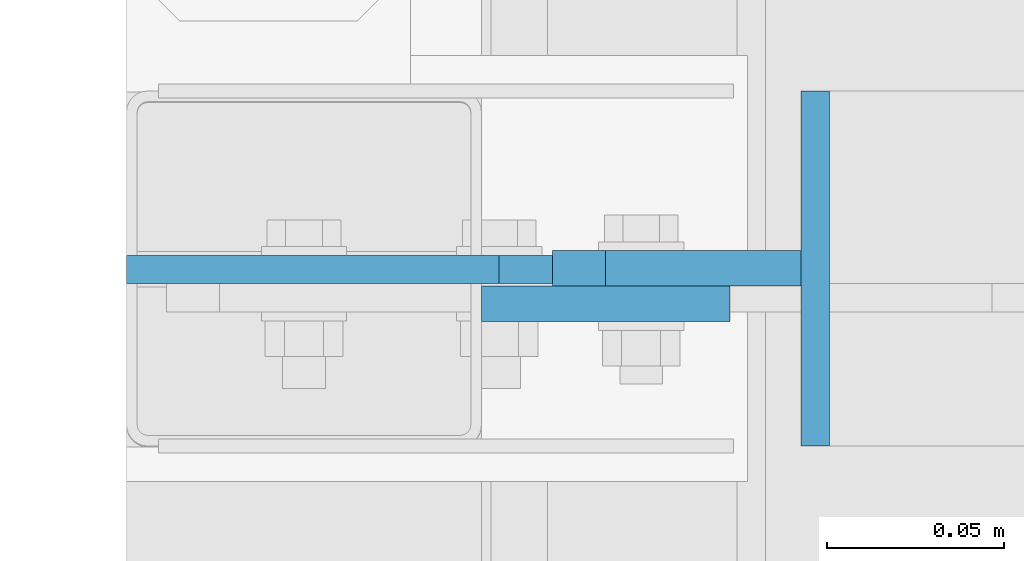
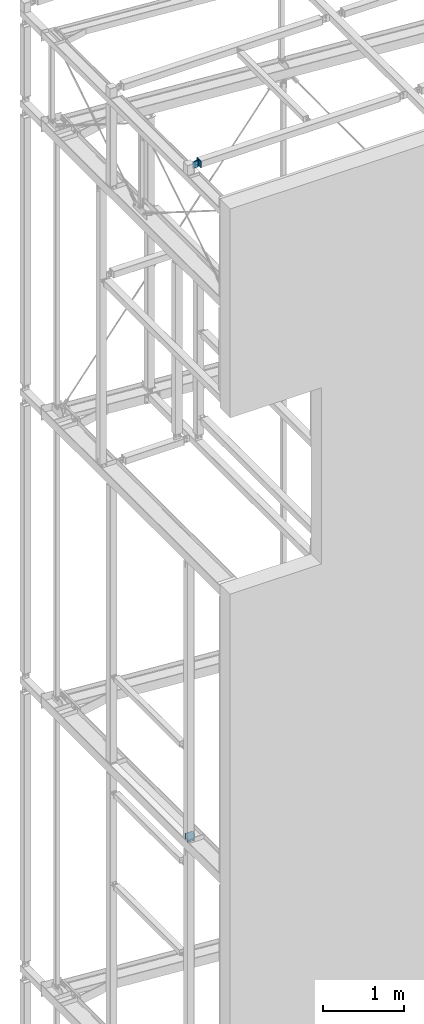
# One storey, part 103 of 271: 4 plates, 3 elements without a shape of their own.
"""IFC2X3 building model written with IfcOpenShell, lengths in millimetres."""

from ifc_helpers import new_model, si_unit, frame, origin_with_axes, place, context, subcontext, project, spatial, polyline, outline, extrude, material, type_object, element, aggregate, save


model = new_model("IFC2X3")

# Units and contexts
model_context = context("Model", 3, precision=1e-05, world=origin_with_axes())
body_context = subcontext(model_context, "Body", "Model", "MODEL_VIEW")
ifc_project = project(units=[si_unit("LENGTHUNIT", "METRE", prefix="MILLI"), si_unit("AREAUNIT", "SQUARE_METRE"), si_unit("VOLUMEUNIT", "CUBIC_METRE"), si_unit("MASSUNIT", "GRAM", prefix="KILO"), si_unit("TIMEUNIT", "SECOND"), si_unit("PLANEANGLEUNIT", "RADIAN"), si_unit("SOLIDANGLEUNIT", "STERADIAN"), si_unit("THERMODYNAMICTEMPERATUREUNIT", "DEGREE_CELSIUS"), si_unit("LUMINOUSINTENSITYUNIT", "LUMEN")], contexts=[model_context])

# Site, building, storey
site_placement = place(None, origin_with_axes())
site = spatial("IfcSite", under=ifc_project, at=site_placement, Name="Undefined", CompositionType="ELEMENT")
building_placement = place(site_placement, origin_with_axes())
building = spatial("IfcBuilding", under=site, at=building_placement, Name="Undefined", CompositionType="ELEMENT")
storey_placement = place(building_placement, origin_with_axes())
storey = spatial("IfcBuildingStorey", under=building, at=storey_placement, Name="Undefined", CompositionType="ELEMENT", Elevation=0.0)

# Assembly, plates
assembly_1_placement = place(storey_placement, origin_with_axes())
assembly_1 = element("IfcElementAssembly", 1, at=assembly_1_placement, inside=storey, AssemblyPlace="NOTDEFINED", PredefinedType="RIGID_FRAME")
ifc_material = material(Name="STEEL/S355JR")
plate_type_1 = type_object("IfcPlateType", Name="BL8*100", PredefinedType="NOTDEFINED")
plate_1_placement = place(assembly_1_placement, frame((182.375687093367, 849.32498425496, 20104.3499999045), z_axis=(-1.0, 0.0, 1.38777878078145e-17), x_axis=(0.0, 0.0, 1.0)))
plate_1 = element("IfcPlate", 2, at=plate_1_placement, type_object=plate_type_1, material=ifc_material, Name="BLACHA", ObjectType="BL8*100", context=body_context, shape_type="SweptSolid", body=[
    extrude(outline(polyline([(0.0, 0.0), (100.0, 0.0), (100.0, 100.0), (1.59161572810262e-12, 100.0), (0.0, 0.0)])), frame((0.0, 0.0, -4.0), z_axis=(0.0, 0.0, 1.0), x_axis=(1.0, 0.0, 0.0)), (0.0, 0.0, 1.0), 8.0),
])
plate_type_2 = type_object("IfcPlateType", Name="BL10*70", PredefinedType="NOTDEFINED")
plate_2_placement = place(assembly_1_placement, frame((123.375687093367, 899.32498425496, 20104.3499999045), z_axis=(0.0, 1.0, 0.0), x_axis=(-0.707106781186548, 0.0, 0.707106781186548)))
plate_2 = element("IfcPlate", 3, at=plate_2_placement, type_object=plate_type_2, material=ifc_material, Name="BLACHA", ObjectType="BL10*70", context=body_context, shape_type="SweptSolid", body=[
    extrude(outline(polyline([(0.0, 0.0), (21.2132034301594, 1.09139364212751e-11), (70.7106781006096, 49.4974746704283), (70.7106781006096, 70.7106781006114), (31.8198051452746, 109.601554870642), (-38.890872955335, 38.8908729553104), (0.0, 0.0)])), frame((0.0, 0.0, -5.0), z_axis=(0.0, 0.0, 1.0), x_axis=(1.0, 0.0, 0.0)), (0.0, 0.0, 1.0), 10.0),
])
aggregate(assembly_1, [plate_1, plate_2])

# Assembly, plate
assembly_2_placement = place(storey_placement, origin_with_axes())
assembly_2 = element("IfcElementAssembly", 4, at=assembly_2_placement, inside=storey, AssemblyPlace="NOTDEFINED", PredefinedType="RIGID_FRAME")
plate_3_placement = place(assembly_2_placement, frame((88.3756870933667, 889.32498425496, 20104.3499999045), z_axis=(0.0, 1.0, 0.0), x_axis=(0.0, 0.0, 1.0)))
plate_3 = element("IfcPlate", 5, at=plate_3_placement, type_object=plate_type_2, material=ifc_material, Name="BLACHA", ObjectType="BL10*70", context=body_context, shape_type="SweptSolid", body=[
    extrude(outline(polyline([(0.0, 0.0), (100.0, 0.0), (100.0, 70.0), (0.0, 70.0), (0.0, 0.0)])), frame((0.0, 0.0, -5.0), z_axis=(0.0, 0.0, 1.0), x_axis=(1.0, 0.0, 0.0)), (0.0, 0.0, 1.0), 10.0),
])
aggregate(assembly_2, [plate_3])

assembly_3_placement = place(storey_placement, origin_with_axes())
assembly_3 = element("IfcElementAssembly", 6, at=assembly_3_placement, inside=storey, AssemblyPlace="NOTDEFINED", PredefinedType="RIGID_FRAME")
plate_type_3 = type_object("IfcPlateType", Name="BL8*130", PredefinedType="NOTDEFINED")
plate_4_placement = place(assembly_3_placement, frame((118.375687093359, 899.052119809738, 10171.8499999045), z_axis=(0.0, 1.0, 0.0), x_axis=(0.0, 0.0, -1.0)))
plate_4 = element("IfcPlate", 7, at=plate_4_placement, type_object=plate_type_3, material=ifc_material, Name="BLACHA", ObjectType="BL8*130", context=body_context, shape_type="SweptSolid", body=[
    extrude(outline(polyline([(0.0, 25.0), (70.0, -8.66862137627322e-13), (150.0, -1.68398628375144e-12), (150.0, 105.0), (90.0, 105.0), (90.0, 130.0), (-3.5527136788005e-14, 130.0), (0.0, 25.0)])), frame((0.0, 0.0, -4.0), z_axis=(0.0, 0.0, 1.0), x_axis=(1.0, 0.0, 0.0)), (0.0, 0.0, 1.0), 8.0),
])
aggregate(assembly_3, [plate_4])

save(model, "model.ifc")
